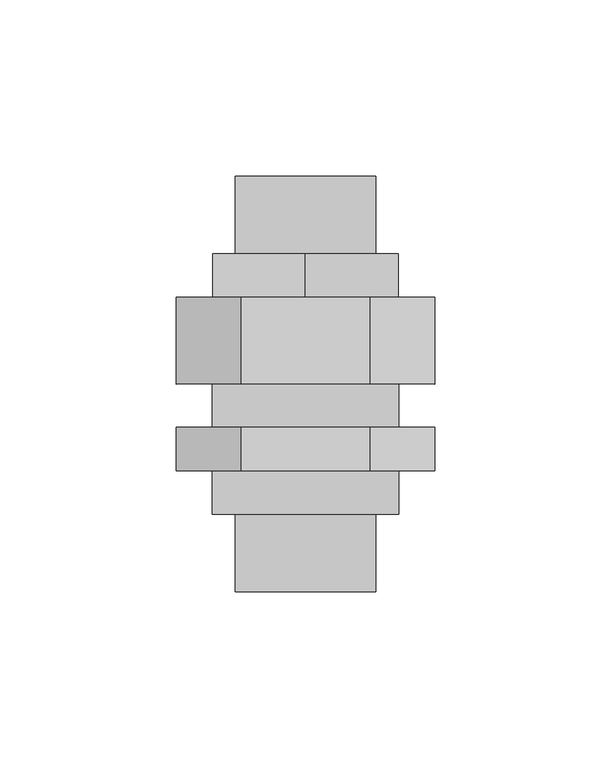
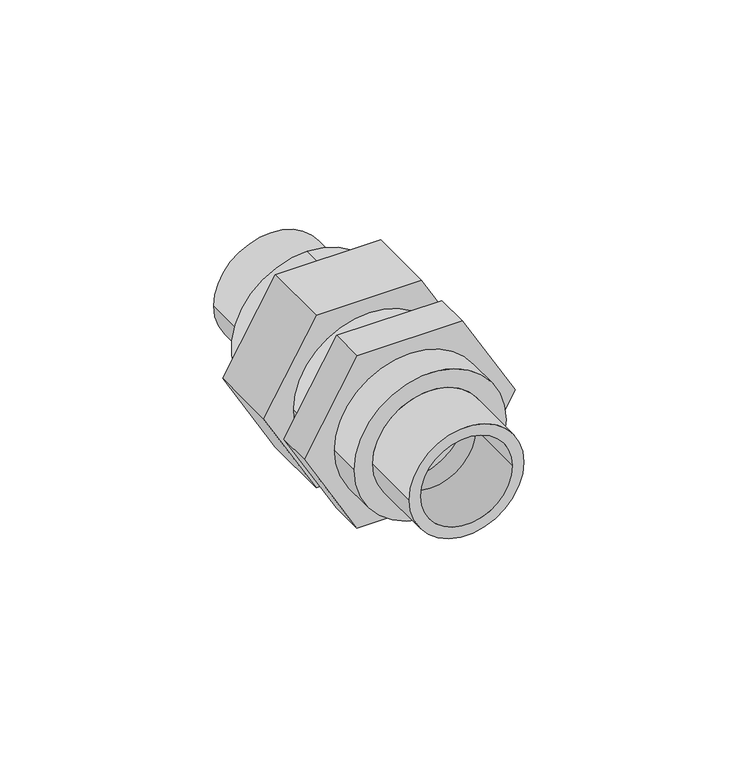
"""IFC4 building model written with IfcOpenShell, lengths in millimetres: pipe fitting geometry, EGB_VASEN_ PPR_Union plastico plastico WXR105 : Unión plástico plástico WXR105."""

from ifc_helpers import new_model, si_unit, point, frame, origin, origin_2d, place, context, project, spatial, polyline, circle_curve, trimmed, segment, composite_curve, outline, extrude, source, transform, mapped, element, save


def pipe_fitting_e77bc621(model_context):
    return source(origin(), model_context, "Body", "SweptSolid", [
        extrude(outline(polyline([(0.0, 36.7194771), (31.8, 18.3597386), (31.8, -18.3597386), (0.0, -36.7194771), (-31.8, -18.3597386), (-31.8, 18.3597386), (0.0, 36.7194771)])), frame((0.0, -45.5229167, 0.0), z_axis=(0.0, 1.0, 0.0), x_axis=(0.0, 0.0, 1.0)), (0.0, 0.0, 1.0), 12.3333333),
        extrude(outline(polyline([(0.0, 36.7194771), (31.8, 18.3597386), (31.8, -18.3597386), (0.0, -36.7194771), (-31.8, -18.3597386), (-31.8, 18.3597386), (0.0, 36.7194771)])), frame((0.0, -20.85625, 0.0), z_axis=(0.0, 1.0, 0.0), x_axis=(0.0, 0.0, 1.0)), (0.0, 0.0, 1.0), 24.6666667),
        extrude(outline(composite_curve([segment(trimmed(circle_curve(origin_2d(), 26.5), [point((0.0, -26.5))], [point((0.0, 26.5))], False, "CARTESIAN"), True, "CONTINUOUS"), segment(trimmed(circle_curve(origin_2d(), 26.5), [point((0.0, 26.5))], [point((0.0, -26.5))], False, "CARTESIAN"), True, "CONTINUOUS")], self_intersect=False), holes=[composite_curve([segment(trimmed(circle_curve(origin_2d(), 20.0), [point((0.0, -20.0))], [point((0.0, 20.0))], True, "CARTESIAN"), True, "CONTINUOUS"), segment(trimmed(circle_curve(origin_2d(), 20.0), [point((0.0, 20.0))], [point((0.0, -20.0))], True, "CARTESIAN"), True, "CONTINUOUS")], self_intersect=False)]), frame((0.0, -57.85625, 0.0), z_axis=(0.0, 1.0, 0.0), x_axis=(0.0, 0.0, 1.0)), (0.0, 0.0, 1.0), 12.3333333),
        extrude(outline(composite_curve([segment(trimmed(circle_curve(origin_2d(), 26.5), [point((-26.5, 0.0))], [point((26.5, 0.0))], False, "CARTESIAN"), True, "CONTINUOUS"), segment(trimmed(circle_curve(origin_2d(), 26.5), [point((26.5, 0.0))], [point((-26.5, 0.0))], False, "CARTESIAN"), True, "CONTINUOUS")], self_intersect=False), holes=[composite_curve([segment(trimmed(circle_curve(origin_2d(), 20.0), [point((-20.0, 0.0))], [point((20.0, 0.0))], True, "CARTESIAN"), True, "CONTINUOUS"), segment(trimmed(circle_curve(origin_2d(), 20.0), [point((20.0, 0.0))], [point((-20.0, 0.0))], True, "CARTESIAN"), True, "CONTINUOUS")], self_intersect=False)]), frame((0.0, 3.8104167, 0.0), z_axis=(0.0, 1.0, 0.0), x_axis=(0.0, 0.0, 1.0)), (0.0, 0.0, 1.0), 12.3333333),
        extrude(outline(composite_curve([segment(trimmed(circle_curve(origin_2d(), 20.0), [point((0.0, -20.0))], [point((0.0, 20.0))], False, "CARTESIAN"), True, "CONTINUOUS"), segment(trimmed(circle_curve(origin_2d(), 20.0), [point((0.0, 20.0))], [point((0.0, -20.0))], False, "CARTESIAN"), True, "CONTINUOUS")], self_intersect=False), holes=[composite_curve([segment(trimmed(circle_curve(origin_2d(), 16.0), [point((0.0, -16.0))], [point((0.0, 16.0))], True, "CARTESIAN"), True, "CONTINUOUS"), segment(trimmed(circle_curve(origin_2d(), 16.0), [point((0.0, 16.0))], [point((0.0, -16.0))], True, "CARTESIAN"), True, "CONTINUOUS")], self_intersect=False)]), frame((0.0, -79.85625, 0.0), z_axis=(0.0, 1.0, 0.0), x_axis=(0.0, 0.0, 1.0)), (0.0, 0.0, 1.0), 22.0),
        extrude(outline(composite_curve([segment(trimmed(circle_curve(origin_2d(), 20.0), [point((0.0, -20.0))], [point((0.0, 20.0))], False, "CARTESIAN"), True, "CONTINUOUS"), segment(trimmed(circle_curve(origin_2d(), 20.0), [point((0.0, 20.0))], [point((0.0, -20.0))], False, "CARTESIAN"), True, "CONTINUOUS")], self_intersect=False), holes=[composite_curve([segment(trimmed(circle_curve(origin_2d(), 16.0), [point((0.0, -16.0))], [point((0.0, 16.0))], True, "CARTESIAN"), True, "CONTINUOUS"), segment(trimmed(circle_curve(origin_2d(), 16.0), [point((0.0, 16.0))], [point((0.0, -16.0))], True, "CARTESIAN"), True, "CONTINUOUS")], self_intersect=False)]), frame((0.0, 16.14375, 0.0), z_axis=(0.0, 1.0, 0.0), x_axis=(0.0, 0.0, 1.0)), (0.0, 0.0, 1.0), 22.0),
        extrude(outline(composite_curve([segment(trimmed(circle_curve(origin_2d(), 26.5), [point((0.0, -26.5))], [point((0.0, 26.5))], False, "CARTESIAN"), True, "CONTINUOUS"), segment(trimmed(circle_curve(origin_2d(), 26.5), [point((0.0, 26.5))], [point((0.0, -26.5))], False, "CARTESIAN"), True, "CONTINUOUS")], self_intersect=False)), frame((0.0, -33.1895833, 0.0), z_axis=(0.0, 1.0, 0.0), x_axis=(0.0, 0.0, 1.0)), (0.0, 0.0, 1.0), 12.3333333),
    ])


if __name__ == "__main__":
    model = new_model("IFC4")
    model_context = context("Model", 3, world=origin())
    ifc_project = project(units=[si_unit("LENGTHUNIT", "METRE", prefix="MILLI")], contexts=[model_context])
    site = spatial("IfcSite", under=ifc_project)
    building = spatial("IfcBuilding", under=site)
    placement = place(None, origin())
    pipe_fitting_shape = pipe_fitting_e77bc621(model_context)
    element("IfcPipeFitting", 1, ObjectType="EGB_VASEN_ PPR_Union plastico plastico WXR105 : Unión plástico plástico WXR105", at=placement, inside=building, context=model_context, shape_type="MappedRepresentation", body=[
        mapped(pipe_fitting_shape, transform((0.0, 0.0, 0.0), x_axis=(1.0, 0.0, 0.0), y_axis=(0.0, 1.0, 0.0), z_axis=(0.0, 0.0, 1.0))),
    ])
    save(model, "model.ifc")
